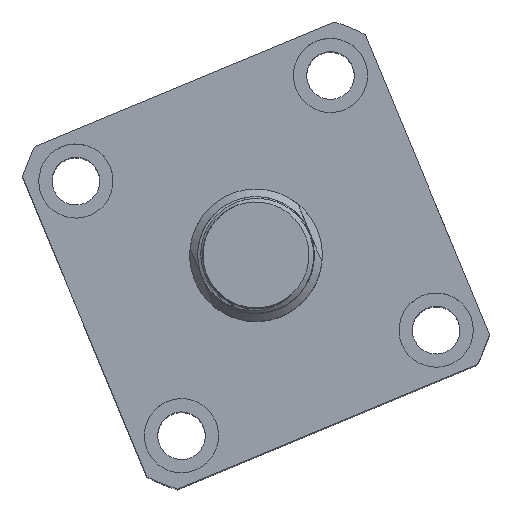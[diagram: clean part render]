
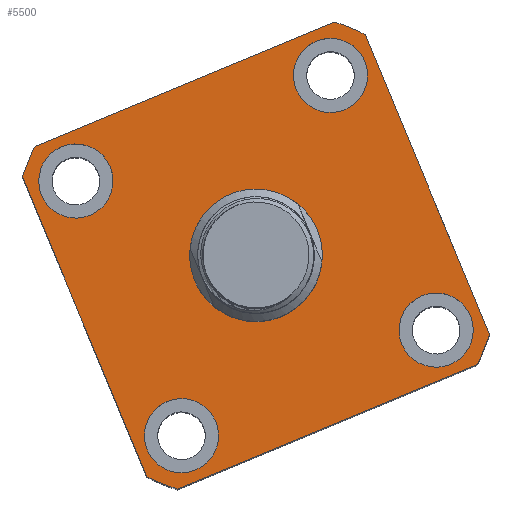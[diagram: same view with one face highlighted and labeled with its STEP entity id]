
A CAD part, top view. The second image highlights one B-rep face of the part: STEP entity #5500.
In plain terms, the highlighted planar face has unit normal (0, 0, 1).
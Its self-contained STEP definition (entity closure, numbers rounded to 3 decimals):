
#490=LINE('',#16845,#1356);
#496=LINE('',#17075,#1362);
#500=LINE('',#17084,#1366);
#504=LINE('',#17093,#1370);
#1356=VECTOR('',#12756,1.);
#1362=VECTOR('',#12888,1.);
#1366=VECTOR('',#12894,1.);
#1370=VECTOR('',#12900,1.);
#4542=PLANE('',#12313);
#5500=ADVANCED_FACE('',(#6125,#6126,#6127,#6128,#6129,#6130),#4542,.F.);
#5958=CIRCLE('',#12239,7.);
#5960=CIRCLE('',#12242,7.);
#5962=CIRCLE('',#12245,7.);
#5964=CIRCLE('',#12248,7.);
#5974=CIRCLE('',#12263,12.5);
#6003=CIRCLE('',#12309,46.5);
#6004=CIRCLE('',#12310,46.5);
#6005=CIRCLE('',#12311,46.5);
#6006=CIRCLE('',#12312,46.5);
#6125=FACE_BOUND('',#6339,.T.);
#6126=FACE_BOUND('',#6340,.T.);
#6127=FACE_BOUND('',#6341,.T.);
#6128=FACE_BOUND('',#6342,.T.);
#6129=FACE_BOUND('',#6343,.T.);
#6130=FACE_BOUND('',#6344,.T.);
#6339=EDGE_LOOP('',(#7020));
#6340=EDGE_LOOP('',(#7021));
#6341=EDGE_LOOP('',(#7022));
#6342=EDGE_LOOP('',(#7023));
#6343=EDGE_LOOP('',(#7024));
#6344=EDGE_LOOP('',(#7025,#7026,#7027,#7028,#7029,#7030,#7031,#7032));
#7020=ORIENTED_EDGE('',*,*,#10591,.F.);
#7021=ORIENTED_EDGE('',*,*,#10593,.F.);
#7022=ORIENTED_EDGE('',*,*,#10595,.F.);
#7023=ORIENTED_EDGE('',*,*,#10597,.F.);
#7024=ORIENTED_EDGE('',*,*,#10607,.F.);
#7025=ORIENTED_EDGE('',*,*,#10652,.F.);
#7026=ORIENTED_EDGE('',*,*,#10637,.F.);
#7027=ORIENTED_EDGE('',*,*,#10653,.F.);
#7028=ORIENTED_EDGE('',*,*,#10588,.F.);
#7029=ORIENTED_EDGE('',*,*,#10654,.F.);
#7030=ORIENTED_EDGE('',*,*,#10645,.F.);
#7031=ORIENTED_EDGE('',*,*,#10655,.F.);
#7032=ORIENTED_EDGE('',*,*,#10641,.F.);
#9598=VERTEX_POINT('',#16843);
#9600=VERTEX_POINT('',#16846);
#9602=VERTEX_POINT('',#16852);
#9604=VERTEX_POINT('',#16857);
#9606=VERTEX_POINT('',#16862);
#9608=VERTEX_POINT('',#16867);
#9618=VERTEX_POINT('',#16892);
#9646=VERTEX_POINT('',#17073);
#9648=VERTEX_POINT('',#17076);
#9650=VERTEX_POINT('',#17082);
#9652=VERTEX_POINT('',#17085);
#9654=VERTEX_POINT('',#17091);
#9656=VERTEX_POINT('',#17094);
#10588=EDGE_CURVE('',#9598,#9600,#490,.T.);
#10591=EDGE_CURVE('',#9602,#9602,#5958,.T.);
#10593=EDGE_CURVE('',#9604,#9604,#5960,.T.);
#10595=EDGE_CURVE('',#9606,#9606,#5962,.T.);
#10597=EDGE_CURVE('',#9608,#9608,#5964,.T.);
#10607=EDGE_CURVE('',#9618,#9618,#5974,.T.);
#10637=EDGE_CURVE('',#9646,#9648,#496,.T.);
#10641=EDGE_CURVE('',#9650,#9652,#500,.T.);
#10645=EDGE_CURVE('',#9654,#9656,#504,.T.);
#10652=EDGE_CURVE('',#9648,#9650,#6003,.T.);
#10653=EDGE_CURVE('',#9600,#9646,#6004,.T.);
#10654=EDGE_CURVE('',#9656,#9598,#6005,.T.);
#10655=EDGE_CURVE('',#9652,#9654,#6006,.T.);
#12239=AXIS2_PLACEMENT_3D('',#16851,#12761,#12762);
#12242=AXIS2_PLACEMENT_3D('',#16856,#12767,#12768);
#12245=AXIS2_PLACEMENT_3D('',#16861,#12773,#12774);
#12248=AXIS2_PLACEMENT_3D('',#16866,#12779,#12780);
#12263=AXIS2_PLACEMENT_3D('',#16891,#12809,#12810);
#12309=AXIS2_PLACEMENT_3D('',#17104,#12915,#12916);
#12310=AXIS2_PLACEMENT_3D('',#17105,#12917,#12918);
#12311=AXIS2_PLACEMENT_3D('',#17106,#12919,#12920);
#12312=AXIS2_PLACEMENT_3D('',#17107,#12921,#12922);
#12313=AXIS2_PLACEMENT_3D('',#17108,#12923,#12924);
#12756=DIRECTION('',(-0.383,0.924,0.));
#12761=DIRECTION('',(0.,0.,1.));
#12762=DIRECTION('',(0.383,-0.924,0.));
#12767=DIRECTION('',(0.,0.,1.));
#12768=DIRECTION('',(0.383,-0.924,0.));
#12773=DIRECTION('',(0.,0.,1.));
#12774=DIRECTION('',(0.383,-0.924,0.));
#12779=DIRECTION('',(0.,0.,1.));
#12780=DIRECTION('',(0.383,-0.924,0.));
#12809=DIRECTION('',(0.,0.,1.));
#12810=DIRECTION('',(0.383,-0.924,0.));
#12888=DIRECTION('',(0.924,0.383,0.));
#12894=DIRECTION('',(0.383,-0.924,0.));
#12900=DIRECTION('',(-0.924,-0.383,0.));
#12915=DIRECTION('',(0.,0.,-1.));
#12916=DIRECTION('',(-0.383,0.924,0.));
#12917=DIRECTION('',(0.,0.,-1.));
#12918=DIRECTION('',(-0.383,0.924,0.));
#12919=DIRECTION('',(0.,0.,-1.));
#12920=DIRECTION('',(-0.383,0.924,0.));
#12921=DIRECTION('',(0.,0.,-1.));
#12922=DIRECTION('',(-0.383,0.924,0.));
#12923=DIRECTION('',(0.,0.,-1.));
#12924=DIRECTION('',(0.383,-0.924,0.));
#16843=CARTESIAN_POINT('',(-87.597,-29.741,82.427));
#16845=CARTESIAN_POINT('',(-85.917,-33.792,82.427));
#16846=CARTESIAN_POINT('',(-111.051,26.818,82.427));
#16851=CARTESIAN_POINT('',(-52.936,45.921,82.427));
#16852=CARTESIAN_POINT('',(-50.255,39.455,82.427));
#16856=CARTESIAN_POINT('',(-100.97,26.003,82.427));
#16857=CARTESIAN_POINT('',(-98.289,19.537,82.427));
#16861=CARTESIAN_POINT('',(-81.051,-22.031,82.427));
#16862=CARTESIAN_POINT('',(-78.37,-28.497,82.427));
#16866=CARTESIAN_POINT('',(-33.018,-2.113,82.427));
#16867=CARTESIAN_POINT('',(-30.336,-8.579,82.427));
#16891=CARTESIAN_POINT('',(-66.994,11.945,82.427));
#16892=CARTESIAN_POINT('',(-62.206,0.398,82.427));
#17073=CARTESIAN_POINT('',(-108.68,32.549,82.427));
#17075=CARTESIAN_POINT('',(-48.07,57.682,82.427));
#17076=CARTESIAN_POINT('',(-52.121,56.002,82.427));
#17082=CARTESIAN_POINT('',(-46.39,53.631,82.427));
#17084=CARTESIAN_POINT('',(-21.257,-6.979,82.427));
#17085=CARTESIAN_POINT('',(-22.936,-2.928,82.427));
#17091=CARTESIAN_POINT('',(-25.308,-8.659,82.427));
#17093=CARTESIAN_POINT('',(-21.257,-6.979,82.427));
#17094=CARTESIAN_POINT('',(-81.867,-32.112,82.427));
#17104=CARTESIAN_POINT('',(-66.994,11.945,82.427));
#17105=CARTESIAN_POINT('',(-66.994,11.945,82.427));
#17106=CARTESIAN_POINT('',(-66.994,11.945,82.427));
#17107=CARTESIAN_POINT('',(-66.994,11.945,82.427));
#17108=CARTESIAN_POINT('',(-66.994,11.945,82.427));
